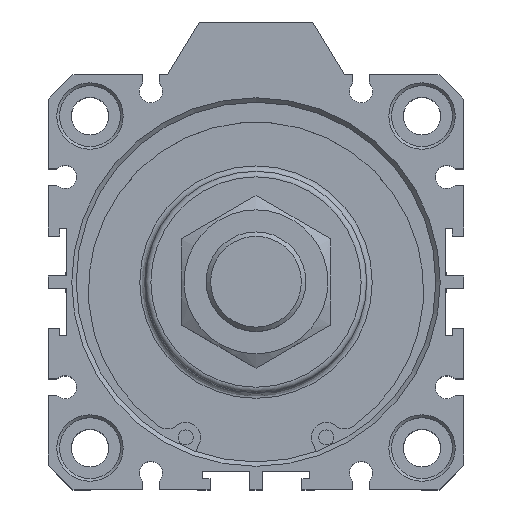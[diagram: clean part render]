
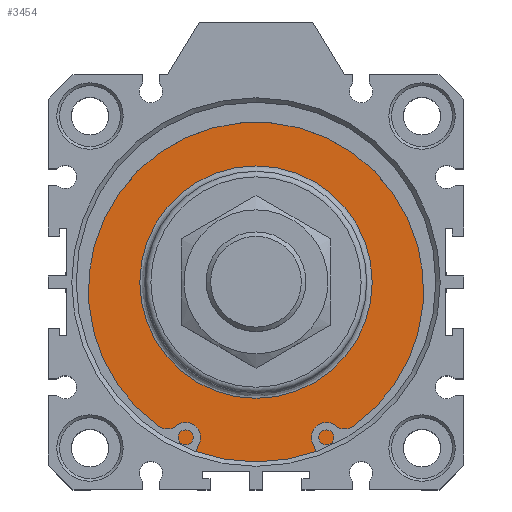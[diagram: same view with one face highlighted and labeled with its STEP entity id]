
A CAD part, top view. The second image highlights one B-rep face of the part: STEP entity #3454.
In plain terms, the highlighted planar face has unit normal (0, 0, 1).
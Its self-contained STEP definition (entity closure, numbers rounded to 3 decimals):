
#3403=CARTESIAN_POINT('',(2.99,22.555,37.3));
#3404=VERTEX_POINT('',#3403);
#3405=CARTESIAN_POINT('',(2.99,1.555,37.3));
#3406=DIRECTION('',(0.0,0.0,1.0));
#3407=DIRECTION('',(0.0,-1.0,0.0));
#3408=AXIS2_PLACEMENT_3D('',#3405,#3406,#3407);
#3409=CIRCLE('',#3408,21.);
#3410=EDGE_CURVE('',#3404,#3404,#3409,.T.);
#3435=CARTESIAN_POINT('',(2.99,27.805,37.3));
#3436=DIRECTION('',(0.0,0.0,1.0));
#3437=DIRECTION('',(1.0,0.0,0.0));
#3438=AXIS2_PLACEMENT_3D('',#3435,#3436,#3437);
#3439=PLANE('',#3438);
#3440=CARTESIAN_POINT('',(2.99,34.055,37.3));
#3441=VERTEX_POINT('',#3440);
#3442=CARTESIAN_POINT('',(2.99,1.555,37.3));
#3443=DIRECTION('',(0.0,0.0,-1.0));
#3444=DIRECTION('',(0.0,1.0,0.0));
#3445=AXIS2_PLACEMENT_3D('',#3442,#3443,#3444);
#3446=CIRCLE('',#3445,32.5);
#3447=EDGE_CURVE('',#3441,#3441,#3446,.T.);
#3448=ORIENTED_EDGE('',*,*,#3447,.F.);
#3449=EDGE_LOOP('',(#3448));
#3450=FACE_OUTER_BOUND('',#3449,.T.);
#3451=ORIENTED_EDGE('',*,*,#3410,.F.);
#3452=EDGE_LOOP('',(#3451));
#3453=FACE_BOUND('',#3452,.T.);
#3454=ADVANCED_FACE('',(#3450,#3453),#3439,.T.);
